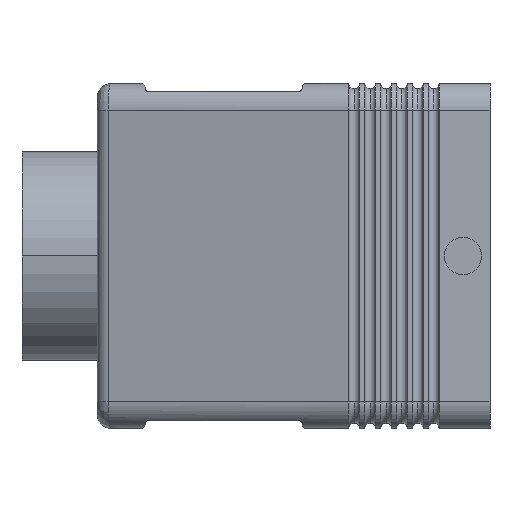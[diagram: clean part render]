
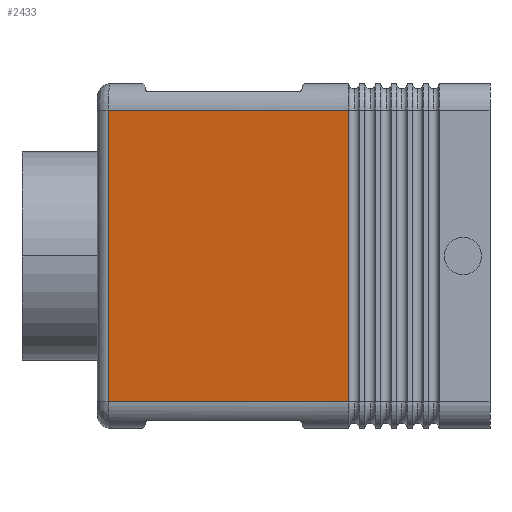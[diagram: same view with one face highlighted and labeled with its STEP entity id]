
A CAD part, left-side view. The second image highlights one B-rep face of the part: STEP entity #2433.
In plain terms, the highlighted planar face has unit normal (-0.983, 0.183, 0).
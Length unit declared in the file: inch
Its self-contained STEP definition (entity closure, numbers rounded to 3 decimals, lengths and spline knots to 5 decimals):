
#3 = LINE ( 'NONE', #4, #5 ) ;
#4 = CARTESIAN_POINT ( 'NONE',  ( -1.83844, -0.55906, -1.37402 ) ) ;
#5 = VECTOR ( 'NONE', #7, 39.37008 ) ;
#7 = DIRECTION ( 'NONE',  ( -0.183, -0.983, 0. ) ) ;
#11 = CARTESIAN_POINT ( 'NONE',  ( -1.8314, -0.52124, -1.37402 ) ) ;
#267 = CARTESIAN_POINT ( 'NONE',  ( -1.40901, 1.74827, -1.37402 ) ) ;
#286 = CARTESIAN_POINT ( 'NONE',  ( -1.40901, 1.74827, 1.37402 ) ) ;
#301 = VECTOR ( 'NONE', #389, 39.37008 ) ;
#352 = CARTESIAN_POINT ( 'NONE',  ( -1.8314, -0.52124, 1.37402 ) ) ;
#389 = DIRECTION ( 'NONE',  ( 0.183, 0.983, 0. ) ) ;
#390 = CARTESIAN_POINT ( 'NONE',  ( -1.83844, -0.55906, 1.37402 ) ) ;
#391 = LINE ( 'NONE', #390, #301 ) ;
#2096 = VERTEX_POINT ( 'NONE', #11 ) ;
#2098 = EDGE_CURVE ( 'NONE', #2099, #2096, #3, .T. ) ;
#2099 = VERTEX_POINT ( 'NONE', #267 ) ;
#2128 = VERTEX_POINT ( 'NONE', #286 ) ;
#2132 = VERTEX_POINT ( 'NONE', #352 ) ;
#2134 = EDGE_CURVE ( 'NONE', #2132, #2128, #391, .T. ) ;
#2209 = EDGE_LOOP ( 'NONE', ( #2210, #2212, #2412, #2414 ) ) ;
#2210 = ORIENTED_EDGE ( 'NONE', *, *, #2211, .F. ) ;
#2211 = EDGE_CURVE ( 'NONE', #2132, #2096, #4498, .T. ) ;
#2212 = ORIENTED_EDGE ( 'NONE', *, *, #2134, .T. ) ;
#2412 = ORIENTED_EDGE ( 'NONE', *, *, #2413, .T. ) ;
#2413 = EDGE_CURVE ( 'NONE', #2128, #2099, #3255, .T. ) ;
#2414 = ORIENTED_EDGE ( 'NONE', *, *, #2098, .T. ) ;
#2433 = ADVANCED_FACE ( 'NONE', ( #3281 ), #3280, .F. ) ;
#3252 = DIRECTION ( 'NONE',  ( 0., 0., -1. ) ) ;
#3253 = VECTOR ( 'NONE', #3252, 39.37008 ) ;
#3254 = CARTESIAN_POINT ( 'NONE',  ( -1.40901, 1.74827, 1.62402 ) ) ;
#3255 = LINE ( 'NONE', #3254, #3253 ) ;
#3276 = DIRECTION ( 'NONE',  ( 0.183, 0.983, 0. ) ) ;
#3277 = DIRECTION ( 'NONE',  ( 0.983, -0.183, 0. ) ) ;
#3278 = CARTESIAN_POINT ( 'NONE',  ( -1.83844, -0.55906, 1.62402 ) ) ;
#3279 = AXIS2_PLACEMENT_3D ( 'NONE', #3278, #3277, #3276 ) ;
#3280 = PLANE ( 'NONE',  #3279 ) ;
#3281 = FACE_OUTER_BOUND ( 'NONE', #2209, .T. ) ;
#4483 = DIRECTION ( 'NONE',  ( 0., 0., -1. ) ) ;
#4484 = VECTOR ( 'NONE', #4483, 39.37008 ) ;
#4485 = CARTESIAN_POINT ( 'NONE',  ( -1.8314, -0.52124, 1.37402 ) ) ;
#4498 = LINE ( 'NONE', #4485, #4484 ) ;
